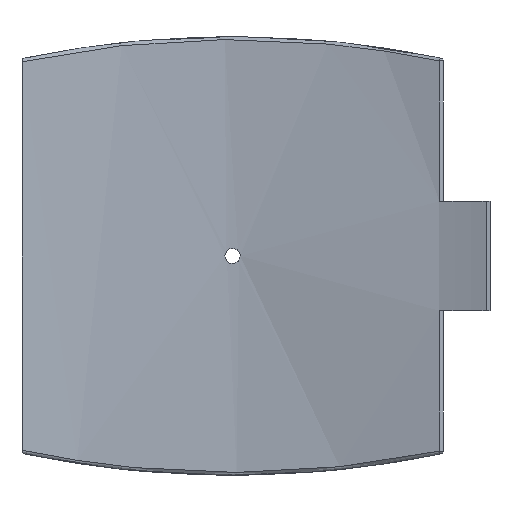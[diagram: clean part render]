
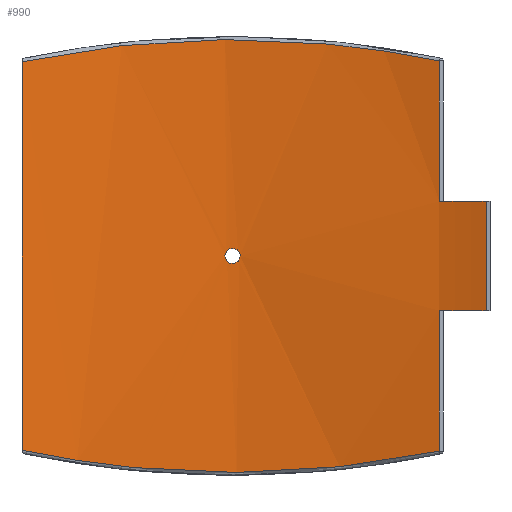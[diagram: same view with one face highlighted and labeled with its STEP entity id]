
A CAD part, front view. The second image highlights one B-rep face of the part: STEP entity #990.
In plain terms, the highlighted cylindrical face has radius 500 mm (diameter 1000 mm), a partial arc.
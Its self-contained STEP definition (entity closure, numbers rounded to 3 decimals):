
#55=FACE_BOUND('',#331,.T.);
#101=B_SPLINE_CURVE_WITH_KNOTS('',3,(#2008,#2009,#2010,#2011,#2012,#2013,
#2014),.UNSPECIFIED.,.F.,.F.,(4,1,1,1,4),(-32.984,-24.624,
-16.264,-12.084,-3.723),.UNSPECIFIED.);
#102=B_SPLINE_CURVE_WITH_KNOTS('',3,(#2023,#2024,#2025,#2026,#2027,#2028,
#2029),.UNSPECIFIED.,.F.,.F.,(4,1,1,1,4),(-29.818,-21.458,
-17.278,-8.918,-0.558),.UNSPECIFIED.);
#103=B_SPLINE_CURVE_WITH_KNOTS('',3,(#2032,#2033,#2034,#2035,#2036,#2037,
#2038,#2039,#2040,#2041),.UNSPECIFIED.,.F.,.F.,(4,2,2,2,4),(0.,0.196,
0.392,0.588,0.784),.UNSPECIFIED.);
#104=B_SPLINE_CURVE_WITH_KNOTS('',3,(#2042,#2043,#2044,#2045,#2046,#2047,
#2048,#2049,#2050,#2051,#2052,#2053,#2054,#2055,#2056,#2057,#2058,#2059,
#2060,#2061,#2062,#2063,#2064,#2065,#2066,#2067),.UNSPECIFIED.,.F.,.F.,
(4,2,2,2,2,2,2,2,2,2,2,2,4),(0.784,0.979,1.175,
1.371,1.567,1.763,1.959,2.155,
2.351,2.546,2.742,2.938,3.134),
 .UNSPECIFIED.);
#125=LINE('',#1483,#172);
#136=LINE('',#1746,#183);
#143=LINE('',#2019,#190);
#144=LINE('',#2022,#191);
#172=VECTOR('',#1188,10.);
#183=VECTOR('',#1227,10.);
#190=VECTOR('',#1264,10.);
#191=VECTOR('',#1267,10.);
#228=CYLINDRICAL_SURFACE('',#1083,500.);
#268=FACE_OUTER_BOUND('',#330,.T.);
#330=EDGE_LOOP('',(#775,#776,#777,#778,#779,#780,#781,#782));
#331=EDGE_LOOP('',(#783,#784));
#413=CIRCLE('',#1084,500.);
#414=CIRCLE('',#1085,500.);
#466=VERTEX_POINT('',#1474);
#469=VERTEX_POINT('',#1481);
#489=VERTEX_POINT('',#1739);
#492=VERTEX_POINT('',#1744);
#505=VERTEX_POINT('',#1997);
#506=VERTEX_POINT('',#2016);
#507=VERTEX_POINT('',#2018);
#508=VERTEX_POINT('',#2021);
#509=VERTEX_POINT('',#2030);
#510=VERTEX_POINT('',#2031);
#561=EDGE_CURVE('',#469,#466,#125,.T.);
#591=EDGE_CURVE('',#492,#489,#136,.T.);
#614=EDGE_CURVE('',#505,#492,#101,.T.);
#615=EDGE_CURVE('',#506,#469,#413,.T.);
#616=EDGE_CURVE('',#506,#507,#143,.T.);
#617=EDGE_CURVE('',#489,#507,#414,.T.);
#618=EDGE_CURVE('',#508,#505,#144,.T.);
#619=EDGE_CURVE('',#466,#508,#102,.T.);
#620=EDGE_CURVE('',#509,#510,#103,.T.);
#621=EDGE_CURVE('',#510,#509,#104,.T.);
#775=ORIENTED_EDGE('',*,*,#615,.F.);
#776=ORIENTED_EDGE('',*,*,#616,.T.);
#777=ORIENTED_EDGE('',*,*,#617,.F.);
#778=ORIENTED_EDGE('',*,*,#591,.F.);
#779=ORIENTED_EDGE('',*,*,#614,.F.);
#780=ORIENTED_EDGE('',*,*,#618,.F.);
#781=ORIENTED_EDGE('',*,*,#619,.F.);
#782=ORIENTED_EDGE('',*,*,#561,.F.);
#783=ORIENTED_EDGE('',*,*,#620,.T.);
#784=ORIENTED_EDGE('',*,*,#621,.T.);
#990=ADVANCED_FACE('',(#268,#55),#228,.F.);
#1083=AXIS2_PLACEMENT_3D('',#2015,#1260,#1261);
#1084=AXIS2_PLACEMENT_3D('',#2017,#1262,#1263);
#1085=AXIS2_PLACEMENT_3D('',#2020,#1265,#1266);
#1188=DIRECTION('',(0.,0.,-1.));
#1227=DIRECTION('',(0.,0.,-1.));
#1260=DIRECTION('center_axis',(0.,0.,1.));
#1261=DIRECTION('ref_axis',(-1.,0.,0.));
#1262=DIRECTION('center_axis',(0.,0.,1.));
#1263=DIRECTION('ref_axis',(-0.347,-0.938,0.));
#1264=DIRECTION('',(0.,0.,1.));
#1265=DIRECTION('center_axis',(0.,0.,-1.));
#1266=DIRECTION('ref_axis',(-0.347,-0.938,0.));
#1267=DIRECTION('',(0.,0.,1.));
#1474=CARTESIAN_POINT('',(141.434,479.579,-133.375));
#1481=CARTESIAN_POINT('',(141.434,479.579,-37.5));
#1483=CARTESIAN_POINT('',(141.434,479.579,0.));
#1739=CARTESIAN_POINT('',(141.434,479.579,37.5));
#1744=CARTESIAN_POINT('',(141.434,479.579,133.375));
#1746=CARTESIAN_POINT('',(141.434,479.579,0.));
#1997=CARTESIAN_POINT('',(-144.,478.815,132.834));
#2008=CARTESIAN_POINT('Ctrl Pts',(-144.,478.815,132.834));
#2009=CARTESIAN_POINT('Ctrl Pts',(-117.953,486.649,138.381));
#2010=CARTESIAN_POINT('Ctrl Pts',(-64.009,498.216,146.702));
#2011=CARTESIAN_POINT('Ctrl Pts',(5.648,501.321,148.957));
#2012=CARTESIAN_POINT('Ctrl Pts',(74.801,495.73,144.913));
#2013=CARTESIAN_POINT('Ctrl Pts',(115.33,487.278,138.832));
#2014=CARTESIAN_POINT('Ctrl Pts',(141.434,479.579,133.375));
#2015=CARTESIAN_POINT('Origin',(0.,0.,0.));
#2016=CARTESIAN_POINT('',(173.337,468.993,-37.5));
#2017=CARTESIAN_POINT('Origin',(0.,0.,
-37.5));
#2018=CARTESIAN_POINT('',(173.337,468.993,37.5));
#2019=CARTESIAN_POINT('',(173.337,468.993,0.));
#2020=CARTESIAN_POINT('Origin',(0.,0.,
37.5));
#2021=CARTESIAN_POINT('',(-144.,478.815,-132.834));
#2022=CARTESIAN_POINT('',(-144.,478.815,0.));
#2023=CARTESIAN_POINT('Ctrl Pts',(141.434,479.579,-133.375));
#2024=CARTESIAN_POINT('Ctrl Pts',(115.33,487.278,-138.832));
#2025=CARTESIAN_POINT('Ctrl Pts',(74.801,495.73,-144.913));
#2026=CARTESIAN_POINT('Ctrl Pts',(5.648,501.321,-148.957));
#2027=CARTESIAN_POINT('Ctrl Pts',(-64.009,498.216,-146.702));
#2028=CARTESIAN_POINT('Ctrl Pts',(-117.953,486.649,-138.381));
#2029=CARTESIAN_POINT('Ctrl Pts',(-144.,478.815,-132.834));
#2030=CARTESIAN_POINT('',(5.2,499.973,0.));
#2031=CARTESIAN_POINT('',(0.,500.,-5.2));
#2032=CARTESIAN_POINT('Ctrl Pts',(5.2,499.973,0.));
#2033=CARTESIAN_POINT('Ctrl Pts',(5.2,499.973,-0.653));
#2034=CARTESIAN_POINT('Ctrl Pts',(5.07,499.974,-1.349));
#2035=CARTESIAN_POINT('Ctrl Pts',(4.539,499.979,-2.631));
#2036=CARTESIAN_POINT('Ctrl Pts',(4.139,499.983,-3.215));
#2037=CARTESIAN_POINT('Ctrl Pts',(3.215,499.99,-4.139));
#2038=CARTESIAN_POINT('Ctrl Pts',(2.631,499.993,-4.539));
#2039=CARTESIAN_POINT('Ctrl Pts',(1.349,499.999,-5.07));
#2040=CARTESIAN_POINT('Ctrl Pts',(0.653,500.,-5.2));
#2041=CARTESIAN_POINT('Ctrl Pts',(0.,500.,-5.2));
#2042=CARTESIAN_POINT('Ctrl Pts',(0.,500.,-5.2));
#2043=CARTESIAN_POINT('Ctrl Pts',(-0.653,500.,-5.2));
#2044=CARTESIAN_POINT('Ctrl Pts',(-1.349,499.999,-5.07));
#2045=CARTESIAN_POINT('Ctrl Pts',(-2.631,499.993,-4.539));
#2046=CARTESIAN_POINT('Ctrl Pts',(-3.215,499.99,-4.139));
#2047=CARTESIAN_POINT('Ctrl Pts',(-4.139,499.983,-3.215));
#2048=CARTESIAN_POINT('Ctrl Pts',(-4.539,499.979,-2.631));
#2049=CARTESIAN_POINT('Ctrl Pts',(-5.07,499.974,-1.349));
#2050=CARTESIAN_POINT('Ctrl Pts',(-5.2,499.973,-0.653));
#2051=CARTESIAN_POINT('Ctrl Pts',(-5.2,499.973,0.653));
#2052=CARTESIAN_POINT('Ctrl Pts',(-5.07,499.974,1.349));
#2053=CARTESIAN_POINT('Ctrl Pts',(-4.539,499.979,2.631));
#2054=CARTESIAN_POINT('Ctrl Pts',(-4.139,499.983,3.215));
#2055=CARTESIAN_POINT('Ctrl Pts',(-3.215,499.99,4.139));
#2056=CARTESIAN_POINT('Ctrl Pts',(-2.631,499.993,4.539));
#2057=CARTESIAN_POINT('Ctrl Pts',(-1.349,499.999,5.07));
#2058=CARTESIAN_POINT('Ctrl Pts',(-0.653,500.,5.2));
#2059=CARTESIAN_POINT('Ctrl Pts',(0.653,500.,5.2));
#2060=CARTESIAN_POINT('Ctrl Pts',(1.349,499.999,5.07));
#2061=CARTESIAN_POINT('Ctrl Pts',(2.631,499.993,4.539));
#2062=CARTESIAN_POINT('Ctrl Pts',(3.215,499.99,4.139));
#2063=CARTESIAN_POINT('Ctrl Pts',(4.139,499.983,3.215));
#2064=CARTESIAN_POINT('Ctrl Pts',(4.539,499.979,2.631));
#2065=CARTESIAN_POINT('Ctrl Pts',(5.07,499.974,1.349));
#2066=CARTESIAN_POINT('Ctrl Pts',(5.2,499.973,0.653));
#2067=CARTESIAN_POINT('Ctrl Pts',(5.2,499.973,0.));
